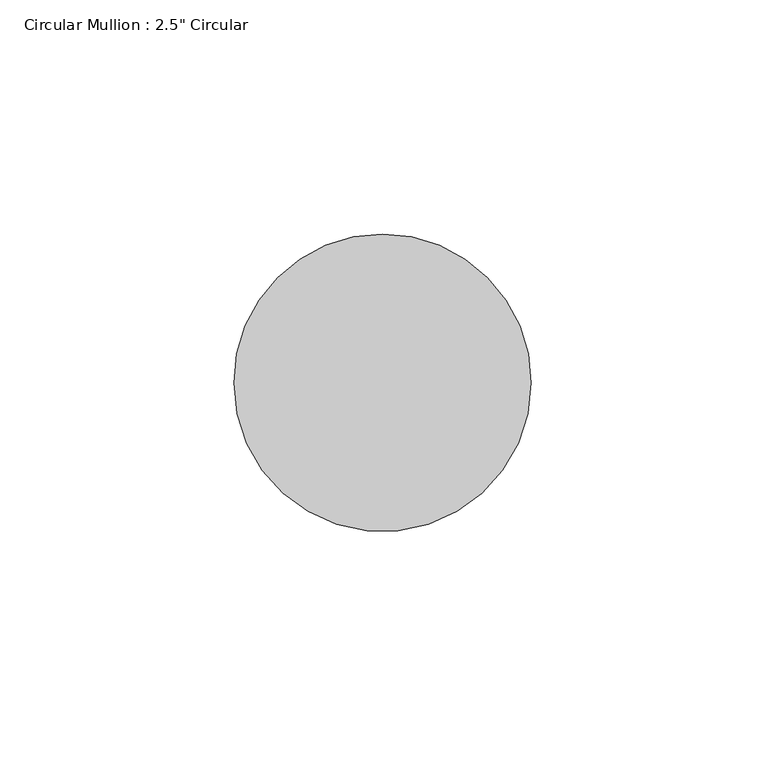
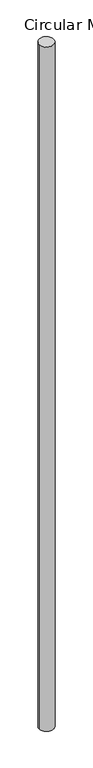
"""IFC4 building model written with IfcOpenShell, lengths in millimetres: member geometry."""

from ifc_helpers import new_model, si_unit, frame, origin, place, context, project, spatial, circle_curve, ellipse_curve, source, transform, mapped, element, save
from ifc_brep_helpers import plane_surface, cylinder_surface, advanced_brep


def member_81e79d79(model_context):
    return source(origin(), model_context, "Body", "AdvancedBrep", [
        advanced_brep(
        [(0.0, 0.0, -3107.3687469), (-63.5, 0.0, -3107.3687469), (-63.5, 0.0, -1.6451911), (0.0, 0.0, 0.0)],
        [
            (0, 1, circle_curve(frame((-31.75, 0.0, -3107.3687469), z_axis=(0.0, 0.0, -1.0), x_axis=(1.0, 0.0, 0.0)), 31.75)),
            (1, 0, circle_curve(frame((-31.75, 0.0, -3107.3687469), z_axis=(0.0, 0.0, -1.0), x_axis=(1.0, 0.0, 0.0)), 31.75)),
            (2, 3, ellipse_curve(frame((-31.75, 0.0, -0.8225955), z_axis=(0.025873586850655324, 0.04500513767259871, -0.9986516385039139), x_axis=(0.4977358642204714, 0.8657737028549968, 0.051912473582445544)), 31.7928683, 31.75)),
            (3, 0),
            (1, 2),
            (3, 2, ellipse_curve(frame((-31.75, 0.0, -0.8225955), z_axis=(0.025873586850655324, 0.04500513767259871, -0.9986516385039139), x_axis=(0.4977358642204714, 0.8657737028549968, 0.051912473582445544)), 31.7928683, 31.75)),
        ],
        [
            plane_surface(frame((0.0, -63.5, -3107.3687469), z_axis=(0.0, 0.0, -1.0), x_axis=(-1.0, 0.0, 0.0))),
            cylinder_surface(frame((-31.75, 0.0, 0.0), z_axis=(0.0, 0.0, 1.0), x_axis=(1.0, 0.0, 0.0)), 31.75),
            plane_surface(frame((264.2441212, -151.9147274, 0.0), z_axis=(-0.02587358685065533, -0.04500513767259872, 0.9986516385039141), x_axis=(-0.4977358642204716, -0.8657737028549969, -0.05191247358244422))),
        ],
        [
            (0, [[1, 2]]),
            (1, [[3, 4, -2, 5]]),
            (1, [[6, -5, -1, -4]]),
            (2, [[-3, -6]]),
        ],
    ),
    ])


if __name__ == "__main__":
    model = new_model("IFC4")
    model_context = context("Model", 3, world=origin())
    ifc_project = project(units=[si_unit("LENGTHUNIT", "METRE", prefix="MILLI")], contexts=[model_context])
    site = spatial("IfcSite", under=ifc_project)
    building = spatial("IfcBuilding", under=site)
    placement = place(None, origin())
    member_shape = member_81e79d79(model_context)
    element("IfcMember", 1, ObjectType="Circular Mullion : 2.5\" Circular", at=placement, inside=building, context=model_context, shape_type="MappedRepresentation", body=[
        mapped(member_shape, transform((0.0, 0.0, 0.0), x_axis=(1.0, 0.0, 0.0), y_axis=(0.0, 1.0, 0.0), z_axis=(0.0, 0.0, 1.0))),
    ])
    save(model, "model.ifc")
